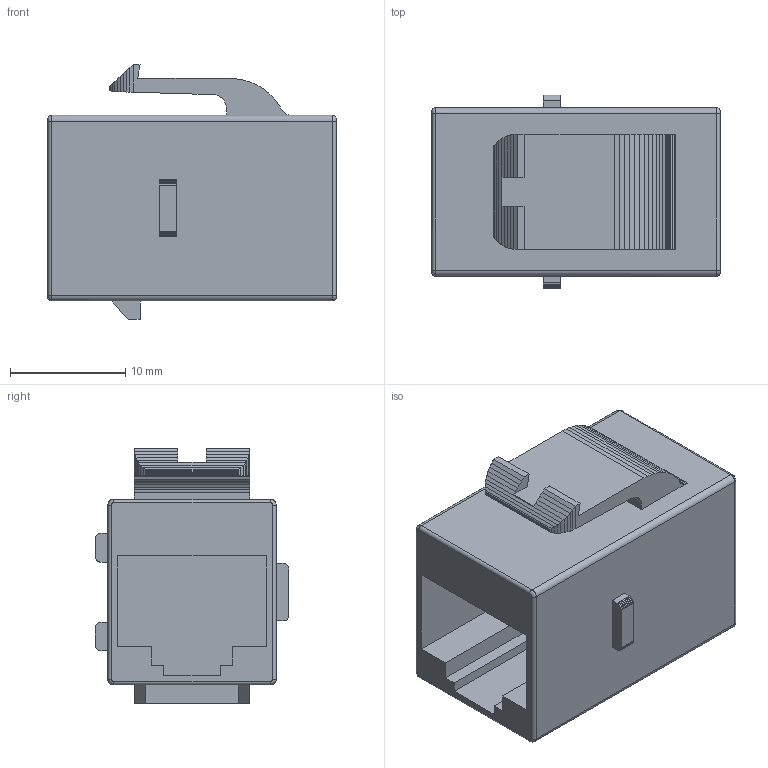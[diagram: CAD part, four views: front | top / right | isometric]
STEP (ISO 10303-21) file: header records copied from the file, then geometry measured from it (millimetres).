
FILE_DESCRIPTION( ('This file contains a STEP AP42 implementation' ,'as created by ZW3D STEP Interface translator.') ,'2;1' );
FILE_NAME( 'TB-030_3013AJIC6WH_SD.stp' ,'26 330.134526', (''), ('ZWCAD Software Co.'), 'Version 1.0', 'ZW3D to STEP translator', '' );
FILE_SCHEMA(('AUTOMOTIVE_DESIGN'));
Length unit declared in the file: millimetre
Products named in the file (2): 0; TB-030_3013AJIC6WH_SD
Bounding box: 25 x 16.8 x 22.1 mm (x, y, z)
Volume: 3818.3 mm3; surface area: 3267.3 mm2
Topology: 1 solids, 1 shells, 181 faces, 474 edges, 302 vertices
Faces by surface type: bspline 181
Entity records: 7721 total; most frequent: CARTESIAN_POINT 4591, ORIENTED_EDGE 948, B_SPLINE_CURVE_WITH_KNOTS 474, EDGE_CURVE 474, VERTEX_POINT 302, EDGE_LOOP 188, FACE_OUTER_BOUND 181, ADVANCED_FACE 181
